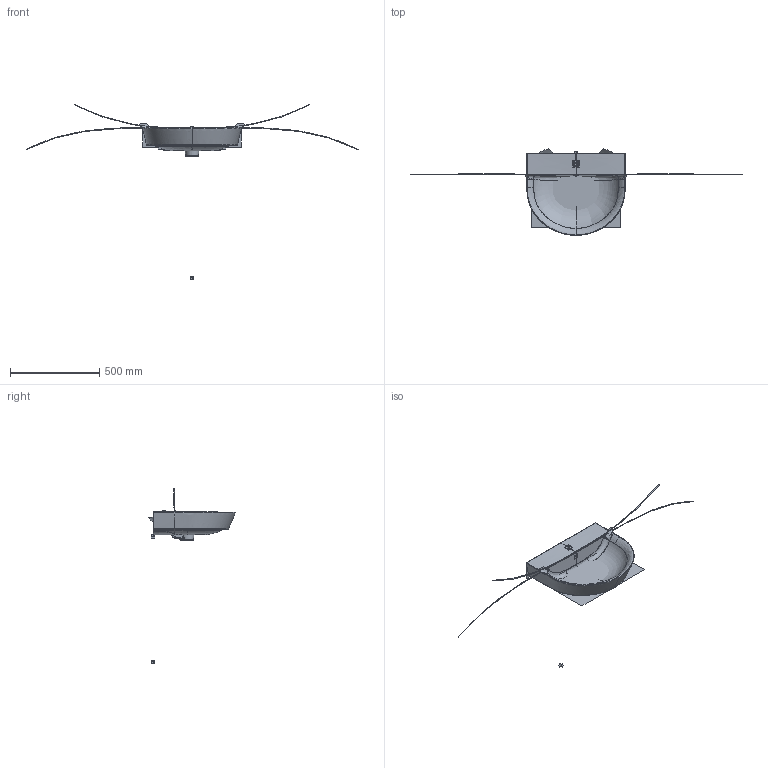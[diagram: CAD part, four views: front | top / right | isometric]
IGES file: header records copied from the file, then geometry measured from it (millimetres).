
Start section: JAMA-IS VERSION  1.0  PTC IGES file: e0698_mk1_3dpl.igs
Global section: file name: e0698_mk1_3dpl.igs; native system: Pro/ENGINEER by Parametric Technology Corporation; preprocessor: 2011330; author: NikolovM; organization: Unknown; date: 20160930.081951; units: millimetre
Bounding box: 1857.65 x 485.4 x 980.83 mm (x, y, z)
Volume: 12423123 mm3; surface area: 2988967.7 mm2
Topology: 1 solids, 13 shells, 178 faces, 896 edges, 1091 vertices
Faces by surface type: bspline 178
